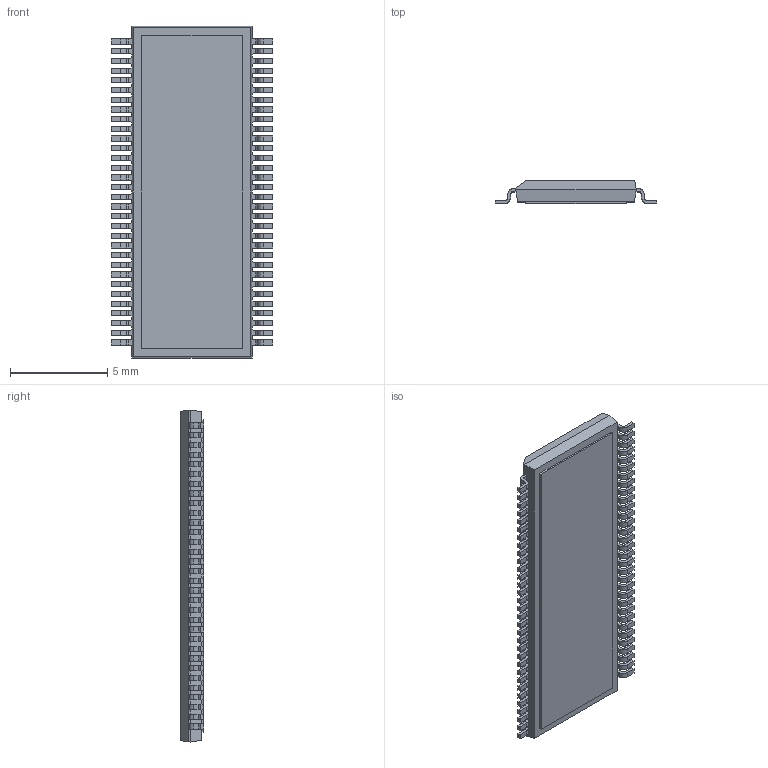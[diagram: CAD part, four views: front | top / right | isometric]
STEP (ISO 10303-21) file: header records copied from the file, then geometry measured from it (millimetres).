
FILE_DESCRIPTION (( 'STEP AP214' ), '1' );
FILE_NAME ('TSSOP50P810X120-64TP_MO-153.EFT.STEP', '2014-10-29T08:33:30', ( 'Tester2' ), ( '' ), 'SwSTEP 2.0', 'SolidWorks 2012', '' );
FILE_SCHEMA (( 'AUTOMOTIVE_DESIGN' ));
Length unit declared in the file: millimetre
Products named in the file (1): TSSOP50P810X120-64TP_MO-153.EFT
Bounding box: 8.3 x 1.2 x 17.1 mm (x, y, z)
Volume: 125.2 mm3; surface area: 335.8 mm2
Topology: 1 solids, 1 shells, 851 faces, 2537 edges, 1690 vertices
Faces by surface type: plane 593, cylinder 258
Entity records: 37749 total; most frequent: CARTESIAN_POINT 5079, ORIENTED_EDGE 5074, DIRECTION 4757, EDGE_CURVE 2537, LINE 2021, VECTOR 2021, VERTEX_POINT 1690, AXIS2_PLACEMENT_3D 1368
